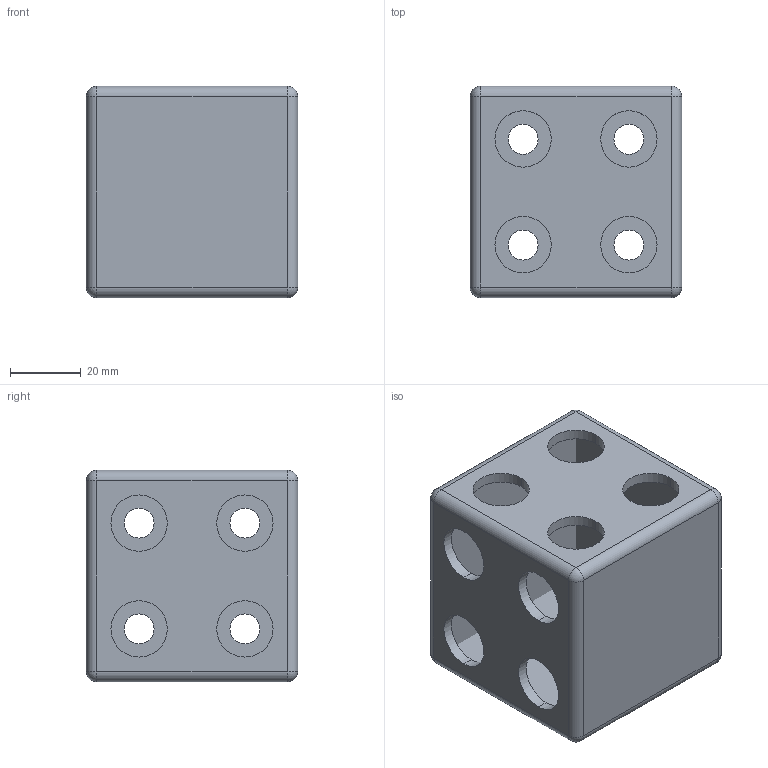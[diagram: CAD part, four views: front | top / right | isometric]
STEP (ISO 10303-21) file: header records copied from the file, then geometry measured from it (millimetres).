
FILE_DESCRIPTION (( 'STEP AP214' ), '1' );
FILE_NAME ('6060-2 Cube 2 side.STEP', '2020-06-16T11:40:56', ( '' ), ( '' ), 'SwSTEP 2.0', 'SolidWorks 2018', '' );
FILE_SCHEMA (( 'AUTOMOTIVE_DESIGN' ));
Length unit declared in the file: millimetre
Products named in the file (1): 6060-2 Cube 2 side
Bounding box: 60 x 60 x 60 mm (x, y, z)
Volume: 53915.9 mm3; surface area: 42338.9 mm2
Topology: 6 solids, 6 shells, 96 faces, 252 edges, 144 vertices
Faces by surface type: cylinder 60, sphere 24, plane 12
Entity records: 4031 total; most frequent: DIRECTION 566, CARTESIAN_POINT 469, ORIENTED_EDGE 456, AXIS2_PLACEMENT_3D 241, EDGE_CURVE 228, CIRCLE 144, VERTEX_POINT 144, EDGE_LOOP 132
